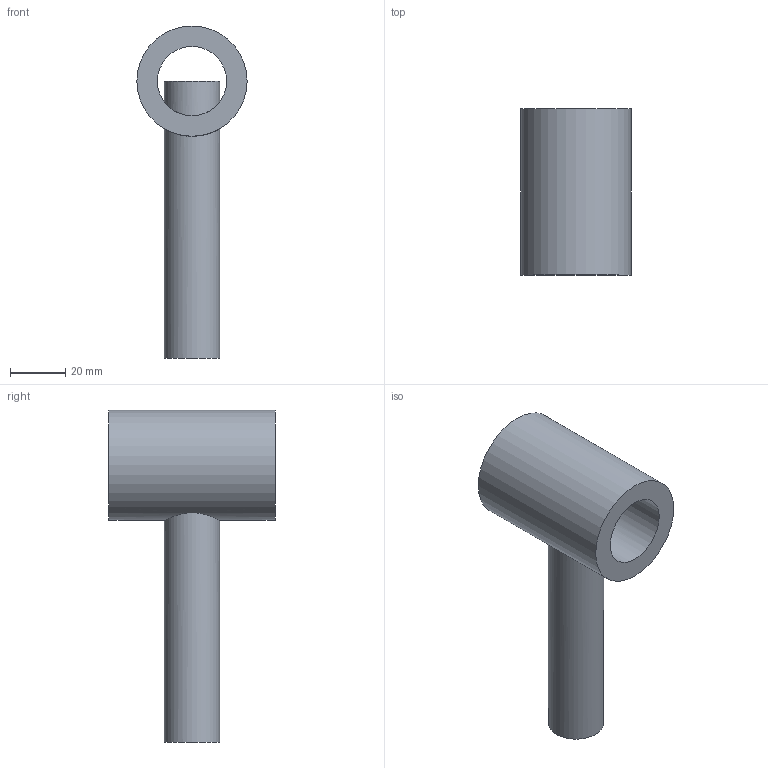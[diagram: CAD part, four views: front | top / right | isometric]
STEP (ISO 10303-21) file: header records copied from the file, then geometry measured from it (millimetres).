
FILE_DESCRIPTION( ( '' ), ' ' );
FILE_NAME( '/vol/tmp/translate-7310519314916309412/5a8d2ca7eaa8d70fe3c27478.step', '2018-02-21T08:24:08', ( '' ), ( '' ), ' ', ' ', ' ' );
FILE_SCHEMA( ( 'AUTOMOTIVE_DESIGN { 1 0 10303 214 1 1 1 1 }' ) );
Length unit declared in the file: metre
Products named in the file (1): Part 7
Bounding box: 39.83 x 60 x 119.91 mm (x, y, z)
Volume: 74241.5 mm3; surface area: 19437.3 mm2
Topology: 1 solids, 1 shells, 8 faces, 18 edges, 12 vertices
Faces by surface type: cylinder 4, plane 4
Full cylindrical faces by diameter (mm): 20 x2, 25 x1, 39.828 x1
Entity records: 445 total; most frequent: CARTESIAN_POINT 228, DIRECTION 30, EDGE_LOOP 16, ORIENTED_EDGE 16, AXIS2_PLACEMENT_3D 15, FACE_OUTER_BOUND 12, STYLED_ITEM 8, PRESENTATION_STYLE_ASSIGNMENT 8
